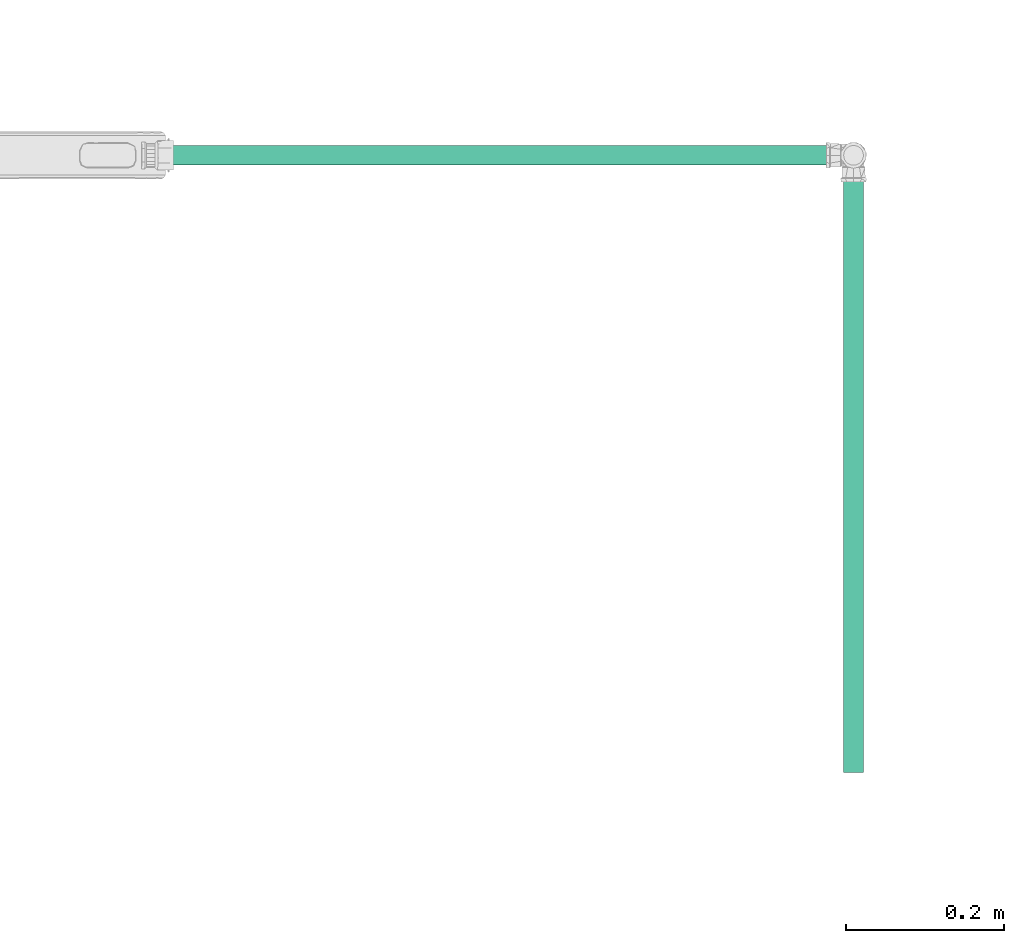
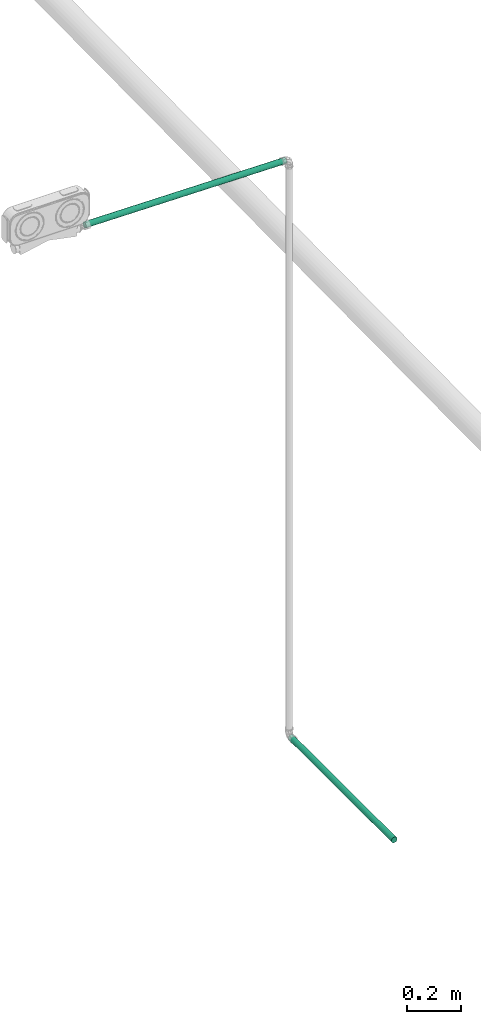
# One storey, part 174 of 589: 2 flow segments.
"""IFC2X3 building model written with IfcOpenShell, lengths in millimetres."""

from ifc_helpers import new_model, entity, si_unit, converted_unit, derived_unit, direction, frame, frame_2d, origin, origin_2d_with_axis, place, context, subcontext, project, spatial, circle, extrude, type_object, element, save


model = new_model("IFC2X3")

# Units and contexts
model_context = context("Model", 3, precision=0.01, world=origin(), true_north=direction((6.123031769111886e-17, 1.0)))
body_context = subcontext(model_context, "Body", "Model", "MODEL_VIEW")
ifc_project = project(units=[si_unit("LENGTHUNIT", "METRE", prefix="MILLI"), si_unit("AREAUNIT", "SQUARE_METRE"), si_unit("VOLUMEUNIT", "CUBIC_METRE"), converted_unit("PLANEANGLEUNIT", "DEGREE", entity("IfcRatioMeasure", 0.017453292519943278), si_unit("PLANEANGLEUNIT", "RADIAN"), dimensions=[0, 0, 0, 0, 0, 0, 0]), si_unit("MASSUNIT", "GRAM", prefix="KILO"), derived_unit("MASSDENSITYUNIT", [(si_unit("MASSUNIT", "GRAM", prefix="KILO"), 1), (si_unit("LENGTHUNIT", "METRE"), -3)]), derived_unit("IONCONCENTRATIONUNIT", [(si_unit("MASSUNIT", "GRAM", prefix="KILO"), 1), (si_unit("LENGTHUNIT", "METRE"), -3)]), derived_unit("MOMENTOFINERTIAUNIT", [(si_unit("LENGTHUNIT", "METRE"), 4)]), si_unit("TIMEUNIT", "SECOND"), si_unit("FREQUENCYUNIT", "HERTZ"), si_unit("THERMODYNAMICTEMPERATUREUNIT", "DEGREE_CELSIUS"), derived_unit("THERMALTRANSMITTANCEUNIT", [(si_unit("MASSUNIT", "GRAM", prefix="KILO"), 1), (si_unit("THERMODYNAMICTEMPERATUREUNIT", "KELVIN"), -1), (si_unit("TIMEUNIT", "SECOND"), -3)]), derived_unit("THERMALCONDUCTANCEUNIT", [(si_unit("MASSUNIT", "GRAM", prefix="KILO"), 1), (si_unit("THERMODYNAMICTEMPERATUREUNIT", "KELVIN"), -1), (si_unit("TIMEUNIT", "SECOND"), -3), (si_unit("LENGTHUNIT", "METRE"), 1)]), derived_unit("VOLUMETRICFLOWRATEUNIT", [(si_unit("LENGTHUNIT", "METRE"), 3), (si_unit("TIMEUNIT", "SECOND"), -1)]), derived_unit("MASSFLOWRATEUNIT", [(si_unit("MASSUNIT", "GRAM", prefix="KILO"), 1), (si_unit("TIMEUNIT", "SECOND"), -1)]), derived_unit("ROTATIONALFREQUENCYUNIT", [(si_unit("TIMEUNIT", "SECOND"), -1)]), si_unit("ELECTRICCURRENTUNIT", "AMPERE"), si_unit("ELECTRICVOLTAGEUNIT", "VOLT"), si_unit("POWERUNIT", "WATT"), si_unit("FORCEUNIT", "NEWTON", prefix="KILO"), si_unit("ILLUMINANCEUNIT", "LUX"), si_unit("LUMINOUSFLUXUNIT", "LUMEN"), si_unit("LUMINOUSINTENSITYUNIT", "CANDELA"), derived_unit("USERDEFINED", [(si_unit("MASSUNIT", "GRAM", prefix="KILO"), -1), (si_unit("LENGTHUNIT", "METRE"), -2), (si_unit("TIMEUNIT", "SECOND"), 3), (si_unit("LUMINOUSFLUXUNIT", "LUMEN"), 1)]), derived_unit("USERDEFINED", [(si_unit("MASSUNIT", "GRAM", prefix="KILO"), 1), (si_unit("TIMEUNIT", "SECOND"), -3), (si_unit("LENGTHUNIT", "METRE"), 3), (si_unit("ELECTRICCURRENTUNIT", "AMPERE"), -2)]), derived_unit("SOUNDPOWERUNIT", [(si_unit("MASSUNIT", "GRAM", prefix="KILO"), 1), (si_unit("TIMEUNIT", "SECOND"), -3), (si_unit("LENGTHUNIT", "METRE"), 2)]), derived_unit("SOUNDPRESSUREUNIT", [(si_unit("MASSUNIT", "GRAM", prefix="KILO"), 1), (si_unit("LENGTHUNIT", "METRE"), -1), (si_unit("TIMEUNIT", "SECOND"), -2)]), derived_unit("LINEARVELOCITYUNIT", [(si_unit("LENGTHUNIT", "METRE"), 1), (si_unit("TIMEUNIT", "SECOND"), -1)]), si_unit("PRESSUREUNIT", "PASCAL"), derived_unit("USERDEFINED", [(si_unit("MASSUNIT", "GRAM", prefix="KILO"), 1), (si_unit("LENGTHUNIT", "METRE"), -2), (si_unit("TIMEUNIT", "SECOND"), -2)]), derived_unit("LINEARFORCEUNIT", [(si_unit("MASSUNIT", "GRAM", prefix="KILO"), 1), (si_unit("TIMEUNIT", "SECOND"), -2)]), derived_unit("PLANARFORCEUNIT", [(si_unit("MASSUNIT", "GRAM", prefix="KILO"), 1), (si_unit("LENGTHUNIT", "METRE"), -1), (si_unit("TIMEUNIT", "SECOND"), -2)]), derived_unit("SPECIFICHEATCAPACITYUNIT", [(si_unit("THERMODYNAMICTEMPERATUREUNIT", "KELVIN"), -1), (si_unit("LENGTHUNIT", "METRE"), 2), (si_unit("TIMEUNIT", "SECOND"), -2)]), derived_unit("HEATINGVALUEUNIT", [(si_unit("LENGTHUNIT", "METRE"), 2), (si_unit("TIMEUNIT", "SECOND"), -2)]), derived_unit("VAPORPERMEABILITYUNIT", [(si_unit("LENGTHUNIT", "METRE"), -1), (si_unit("TIMEUNIT", "SECOND"), 1)]), derived_unit("DYNAMICVISCOSITYUNIT", [(si_unit("MASSUNIT", "GRAM", prefix="KILO"), 1), (si_unit("TIMEUNIT", "SECOND"), -1), (si_unit("LENGTHUNIT", "METRE"), -1)]), derived_unit("THERMALEXPANSIONCOEFFICIENTUNIT", [(si_unit("THERMODYNAMICTEMPERATUREUNIT", "KELVIN"), -1)]), derived_unit("MODULUSOFELASTICITYUNIT", [(si_unit("MASSUNIT", "GRAM", prefix="KILO"), 1), (si_unit("LENGTHUNIT", "METRE"), -1), (si_unit("TIMEUNIT", "SECOND"), -2)]), derived_unit("ISOTHERMALMOISTURECAPACITYUNIT", [(si_unit("LENGTHUNIT", "METRE"), 3), (si_unit("MASSUNIT", "GRAM", prefix="KILO"), -1)]), derived_unit("MOISTUREDIFFUSIVITYUNIT", [(si_unit("TIMEUNIT", "SECOND"), -1), (si_unit("LENGTHUNIT", "METRE"), 2)])], contexts=[model_context])

# Site, building, storey
site_placement = place(None, origin())
site = spatial("IfcSite", under=ifc_project, at=site_placement, Name="Default", CompositionType="ELEMENT")
building_placement = place(site_placement, origin())
building = spatial("IfcBuilding", under=site, at=building_placement, CompositionType="ELEMENT")
storey_placement = place(building_placement, frame((0.0, 0.0, 100.0)))
storey = spatial("IfcBuildingStorey", under=building, at=storey_placement, Name="TÉRREO", CompositionType="ELEMENT", Elevation=100.0)

# Flow segments
pipe_segment_type = type_object("IfcPipeSegmentType", Name="Tipos de tubos:PVC Marrom Soldável", PredefinedType="NOTDEFINED")
flow_segment_1_placement = place(storey_placement, origin())
element("IfcFlowSegment", 1, at=flow_segment_1_placement, inside=storey, type_object=pipe_segment_type, Name="Tipos de tubos:PVC Marrom Soldável", ObjectType="Tipos de tubos:PVC Marrom Soldável", context=body_context, shape_type="SweptSolid", body=[
    extrude(circle(Radius=12.5, at=frame_2d((-4.2222592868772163e-20, -9.417920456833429e-08), x_axis=(1.0, 0.0))), frame((14568.709146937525, -8667.86127893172, -37.355479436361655), z_axis=(-1.8287699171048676e-07, 1.0, 0.0), x_axis=(-1.0, -1.8287699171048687e-07, 0.0)), (0.0, 0.0, 1.0), 764.6000580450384),
])
flow_segment_2_placement = place(storey_placement, origin())
element("IfcFlowSegment", 2, at=flow_segment_2_placement, inside=storey, type_object=pipe_segment_type, Name="Tipos de tubos:PVC Marrom Soldável", ObjectType="Tipos de tubos:PVC Marrom Soldável", context=body_context, shape_type="SweptSolid", body=[
    extrude(circle(Radius=12.5, at=origin_2d_with_axis()), frame((14552.263905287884, -7887.861220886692, 2570.6091012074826), z_axis=(-0.9999500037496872, -2.892494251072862e-08, 0.009999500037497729), x_axis=(2.8926388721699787e-08, -1.0, 0.0)), (0.0, 0.0, 1.0), 859.0908347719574),
])

save(model, "model.ifc")
